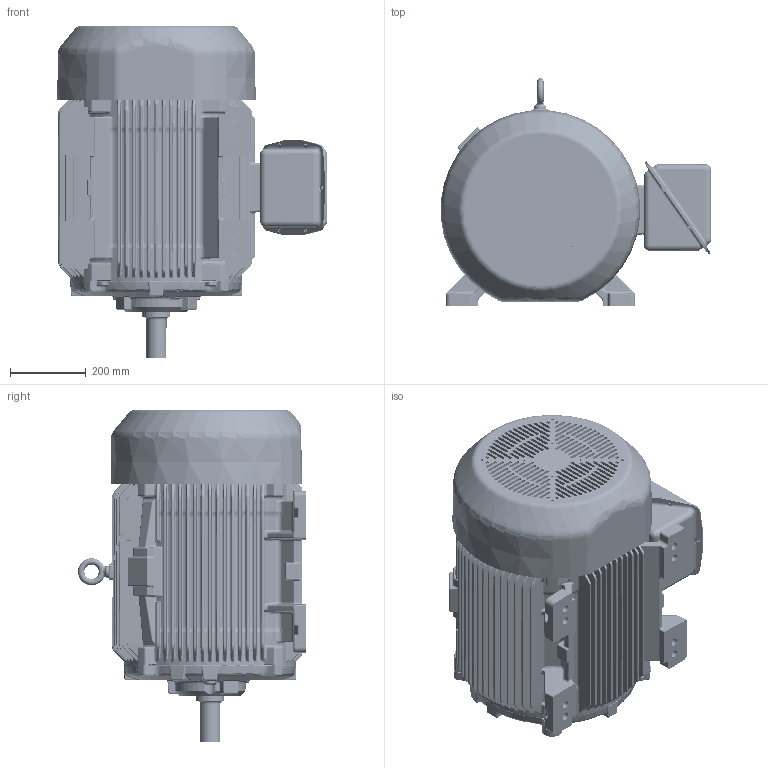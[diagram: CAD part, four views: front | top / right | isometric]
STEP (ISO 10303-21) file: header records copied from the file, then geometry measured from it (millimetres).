
FILE_DESCRIPTION((''),'2;1');
FILE_NAME('400_3D_ASM_ASM','2017-12-14T',('EMD2341'),('Nidec Motor Corporation'),'CREO PARAMETRIC BY PTC INC, 2017170','CREO PARAMETRIC BY PTC INC, 2017170','');
FILE_SCHEMA(('CONFIG_CONTROL_DESIGN'));
Length unit declared in the file: inch
Products named in the file (10): 400_FOOTED_FRAME; 400_DE_BRKT; 400_TS; 0013350; 400_STL_FCVR; 400_STL_GSK_OBB; 400_STL_OBB; 400_STL_GSK_OBC; 400_STL_OBC; 400_3D_ASM_ASM
Assembly tree (9 placements, depth 2):
  400_3D_ASM_ASM
    400_FOOTED_FRAME
    400_DE_BRKT
    400_TS
    0013350
    400_STL_FCVR
    400_STL_GSK_OBB
    400_STL_OBB
    400_STL_GSK_OBC
    400_STL_OBC
Bounding box: 716.01 x 604.01 x 879.35 mm (x, y, z)
Volume: 146716457.3 mm3; surface area: 4520674.4 mm2
Topology: 9 solids, 9 shells, 5920 faces, 13547 edges, 7760 vertices
Faces by surface type: bspline 2596, cylinder 1332, plane 1170, torus 368, extrusion 312, sphere 84, cone 58
Entity records: 273915 total; most frequent: CARTESIAN_POINT 158502, ORIENTED_EDGE 27078, DIRECTION 19118, EDGE_CURVE 13539, VERTEX_POINT 7760, AXIS2_PLACEMENT_3D 7265, EDGE_LOOP 6099, FACE_OUTER_BOUND 5920
